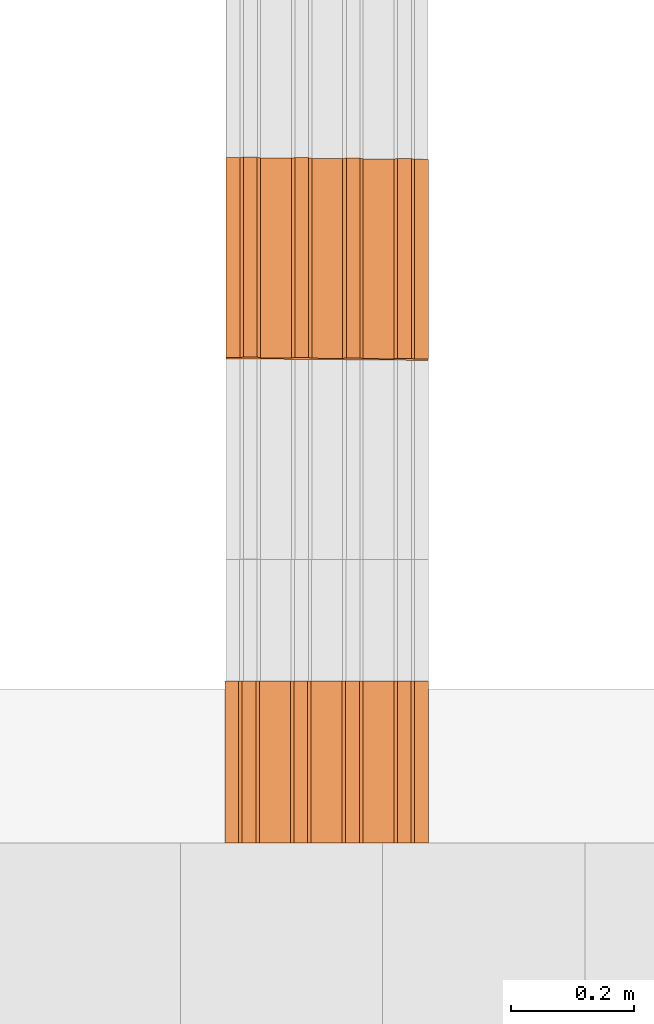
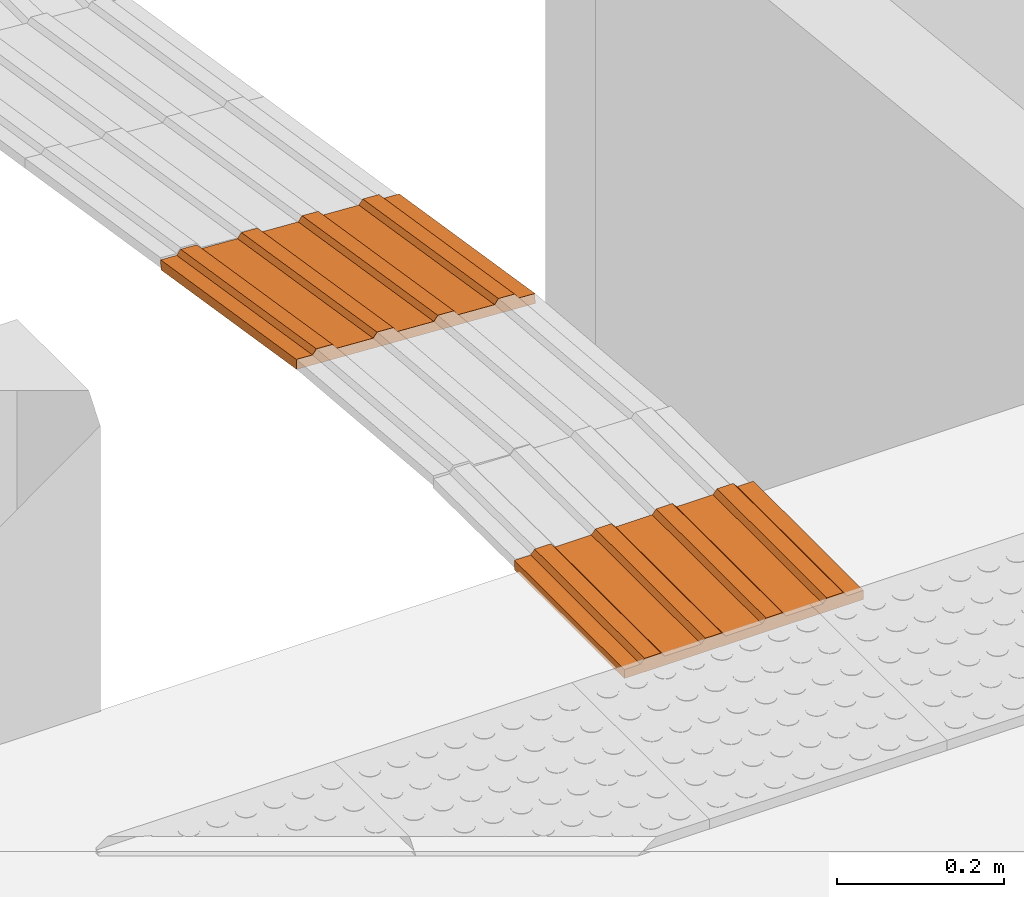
# One storey, part 228 of 237: 2 proxies.
"""IFC2X3 building model written with IfcOpenShell, lengths in millimetres."""

from ifc_helpers import new_model, entity, si_unit, converted_unit, derived_unit, money_unit, direction, frame, origin_with_axes, place, context, subcontext, project, spatial, open_shell, surface_model, type_object, element, save


model = new_model("IFC2X3")

# Units and contexts
model_context = context("Model", 3, precision=0.01, world=origin_with_axes(), true_north=direction((0.0, 1.0)))
body_context = subcontext(model_context, "Body", "Model", "MODEL_VIEW")
ifc_project = project(units=[si_unit("LENGTHUNIT", "METRE", prefix="MILLI"), si_unit("AREAUNIT", "SQUARE_METRE"), si_unit("VOLUMEUNIT", "CUBIC_METRE"), converted_unit("PLANEANGLEUNIT", "DEGREE", entity("IfcPlaneAngleMeasure", 0.0174532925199), si_unit("PLANEANGLEUNIT", "RADIAN"), dimensions=[0, 0, 0, 0, 0, 0, 0]), money_unit("USD"), converted_unit("TIMEUNIT", "Year", entity("IfcTimeMeasure", 31556926.0), si_unit("TIMEUNIT", "SECOND"), dimensions=[0, 0, 1, 0, 0, 0, 0]), si_unit("MASSUNIT", "GRAM", prefix="KILO"), si_unit("THERMODYNAMICTEMPERATUREUNIT", "DEGREE_CELSIUS"), si_unit("LUMINOUSINTENSITYUNIT", "LUMEN"), si_unit("ENERGYUNIT", "JOULE", prefix="MEGA"), derived_unit("THERMALCONDUCTANCEUNIT", [(si_unit("POWERUNIT", "WATT"), 1), (si_unit("LENGTHUNIT", "METRE"), -1), (si_unit("THERMODYNAMICTEMPERATUREUNIT", "KELVIN"), -1)]), derived_unit("SPECIFICHEATCAPACITYUNIT", [(si_unit("ENERGYUNIT", "JOULE"), 1), (si_unit("MASSUNIT", "GRAM", prefix="KILO"), -1), (si_unit("THERMODYNAMICTEMPERATUREUNIT", "KELVIN"), -1)]), derived_unit("MASSDENSITYUNIT", [(si_unit("MASSUNIT", "GRAM", prefix="KILO"), 1), (si_unit("VOLUMEUNIT", "CUBIC_METRE"), -1)])], contexts=[model_context])

# Site, building, storey
site_placement = place(None, origin_with_axes())
site = spatial("IfcSite", under=ifc_project, at=site_placement, Name="Local", CompositionType="ELEMENT")
building_placement = place(site_placement, origin_with_axes())
building = spatial("IfcBuilding", under=site, at=building_placement, Name="Construção", CompositionType="ELEMENT")
storey_placement = place(building_placement, origin_with_axes())
storey = spatial("IfcBuildingStorey", under=building, at=storey_placement, Name="Pavimento Térreo", CompositionType="ELEMENT", Elevation=0.0)

# Proxies
building_element_proxy_type = type_object("IfcBuildingElementProxyType", Name="Piso Direcional 27", PredefinedType="NOTDEFINED")
proxy_1_placement = place(storey_placement, frame((97801.7189326, 35320.0522572, -5076.21992774), z_axis=(0.0, 0.0, 1.0), x_axis=(0.0, -1.0, 0.0)))
element("IfcBuildingElementProxy", 1, at=proxy_1_placement, inside=storey, type_object=building_element_proxy_type, Name="Objeto-0055", context=body_context, shape_type="SurfaceModel", body=[
    surface_model("IfcShellBasedSurfaceModel", [(-1.01624583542, -46.9826230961, 6.41632368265), (324.920906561, -46.9826230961, 58.0396971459), (323.9252319, -41.0481616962, 64.3261395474), (-2.01192049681, -41.0481616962, 12.7027660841)], [open_shell([[[0, 1, 2, 3]]])]),
    surface_model("IfcShellBasedSurfaceModel", [(326.133783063, -153.805981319, 50.3818962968), (328.835541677, 175.74176515, 33.3236637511), (326.752607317, 176.4395779, 46.4747937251), (326.569437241, 154.0973578, 47.6312840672), (325.482177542, 148.86070915, 54.4959716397), (325.299007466, 126.518489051, 55.6524619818), (326.294682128, 120.584027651, 49.3660195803), (325.882549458, 70.3140324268, 51.96812285), (324.795289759, 65.0773837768, 58.8328104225), (324.612119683, 42.7351636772, 59.9893007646), (325.607794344, 36.8007022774, 53.7028583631), (325.195661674, -13.4692929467, 56.3049616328), (324.108401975, -18.7059415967, 63.1696492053), (323.9252319, -41.0481616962, 64.3261395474), (324.920906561, -46.9826230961, 58.0396971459), (324.508773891, -97.2526183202, 60.6418004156), (323.421514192, -102.48926697, 67.5064879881), (323.238344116, -124.83148707, 68.6629783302), (324.234018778, -130.76594847, 62.3765359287), (324.050848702, -153.108168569, 63.5330262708)], [open_shell([[[0, 1, 2, 3, 4, 5, 6, 7, 8, 9, 10, 11, 12, 13, 14, 15, 16, 17, 18, 19]]])]),
    surface_model("IfcShellBasedSurfaceModel", [(-1.82875042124, -18.7059415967, 11.5462757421), (324.108401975, -18.7059415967, 63.1696492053), (325.195661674, -13.4692929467, 56.3049616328), (-0.74149072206, -13.4692929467, 4.68158816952)], [open_shell([[[0, 1, 2, 3]]])]),
    surface_model("IfcShellBasedSurfaceModel", [(-2.51563820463, -102.48926697, 15.8831145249), (323.421514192, -102.48926697, 67.5064879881), (324.508773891, -97.2526183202, 60.6418004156), (-1.42837850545, -97.2526183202, 9.01842695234)], [open_shell([[[0, 1, 2, 3]]])]),
    surface_model("IfcShellBasedSurfaceModel", [(-1.14186263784, 65.0773837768, 7.20943695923), (324.795289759, 65.0773837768, 58.8328104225), (325.882549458, 70.3140324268, 51.96812285), (-0.0546029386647, 70.3140324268, 0.3447493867)], [open_shell([[[0, 1, 2, 3]]])]),
    surface_model("IfcShellBasedSurfaceModel", [(-0.329358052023, 36.8007022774, 2.07948489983), (325.607794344, 36.8007022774, 53.7028583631), (324.612119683, 42.7351636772, 59.9893007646), (-1.32503271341, 42.7351636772, 8.36592730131)], [open_shell([[[0, 1, 2, 3]]])]),
    surface_model("IfcShellBasedSurfaceModel", [(-1.70313361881, -130.76594847, 10.7531624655), (324.234018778, -130.76594847, 62.3765359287), (323.238344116, -124.83148707, 68.6629783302), (-2.6988082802, -124.83148707, 17.039604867)], [open_shell([[[0, 1, 2, 3]]])]),
    surface_model("IfcShellBasedSurfaceModel", [(0.815454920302, 176.4395779, -5.14857973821), (0.63228484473, 154.0973578, -3.99208939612), (326.569437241, 154.0973578, 47.6312840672), (326.752607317, 176.4395779, 46.4747937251)], [open_shell([[[0, 1, 2, 3]]])]),
    surface_model("IfcShellBasedSurfaceModel", [(0.357529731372, 120.584027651, -2.25735388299), (326.294682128, 120.584027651, 49.3660195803), (325.299007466, 126.518489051, 55.6524619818), (-0.638144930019, 126.518489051, 4.02908851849)], [open_shell([[[0, 1, 2, 3]]])]),
    surface_model("IfcShellBasedSurfaceModel", [(-0.454974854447, 148.86070915, 2.87259817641), (325.482177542, 148.86070915, 54.4959716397), (326.569437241, 154.0973578, 47.6312840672), (0.63228484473, 154.0973578, -3.99208939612)], [open_shell([[[0, 1, 2, 3]]])]),
    surface_model("IfcShellBasedSurfaceModel", [(-0.329358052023, 36.8007022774, 2.07948489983), (-0.74149072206, -13.4692929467, 4.68158816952), (325.195661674, -13.4692929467, 56.3049616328), (325.607794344, 36.8007022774, 53.7028583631)], [open_shell([[[0, 1, 2, 3]]])]),
    surface_model("IfcShellBasedSurfaceModel", [(0.357529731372, 120.584027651, -2.25735388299), (-0.0546029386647, 70.3140324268, 0.3447493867), (325.882549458, 70.3140324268, 51.96812285), (326.294682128, 120.584027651, 49.3660195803)], [open_shell([[[0, 1, 2, 3]]])]),
    surface_model("IfcShellBasedSurfaceModel", [(-0.454974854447, 148.86070915, 2.87259817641), (-0.638144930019, 126.518489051, 4.02908851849), (325.299007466, 126.518489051, 55.6524619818), (325.482177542, 148.86070915, 54.4959716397)], [open_shell([[[0, 1, 2, 3]]])]),
    surface_model("IfcShellBasedSurfaceModel", [(0.357529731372, 120.584027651, -2.25735388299), (-0.638144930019, 126.518489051, 4.02908851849), (-0.454974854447, 148.86070915, 2.87259817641), (0.63228484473, 154.0973578, -3.99208939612), (0.815454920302, 176.4395779, -5.14857973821), (2.89838928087, 175.74176515, -18.2997097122), (0.196630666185, -153.805981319, -1.24147716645), (-1.88630369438, -153.108168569, 11.9096528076), (-1.70313361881, -130.76594847, 10.7531624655), (-2.6988082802, -124.83148707, 17.039604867), (-2.51563820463, -102.48926697, 15.8831145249), (-1.42837850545, -97.2526183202, 9.01842695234), (-1.01624583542, -46.9826230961, 6.41632368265), (-2.01192049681, -41.0481616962, 12.7027660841), (-1.82875042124, -18.7059415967, 11.5462757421), (-0.74149072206, -13.4692929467, 4.68158816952), (-0.329358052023, 36.8007022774, 2.07948489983), (-1.32503271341, 42.7351636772, 8.36592730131), (-1.14186263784, 65.0773837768, 7.20943695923), (-0.0546029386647, 70.3140324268, 0.3447493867)], [open_shell([[[0, 1, 2, 3, 4, 5, 6, 7, 8, 9, 10, 11, 12, 13, 14, 15, 16, 17, 18, 19]]])]),
    surface_model("IfcShellBasedSurfaceModel", [(323.9252319, -41.0481616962, 64.3261395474), (324.108401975, -18.7059415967, 63.1696492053), (-1.82875042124, -18.7059415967, 11.5462757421), (-2.01192049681, -41.0481616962, 12.7027660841)], [open_shell([[[0, 1, 2, 3]]])]),
    surface_model("IfcShellBasedSurfaceModel", [(-1.01624583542, -46.9826230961, 6.41632368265), (-1.42837850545, -97.2526183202, 9.01842695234), (324.508773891, -97.2526183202, 60.6418004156), (324.920906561, -46.9826230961, 58.0396971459)], [open_shell([[[0, 1, 2, 3]]])]),
    surface_model("IfcShellBasedSurfaceModel", [(324.612119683, 42.7351636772, 59.9893007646), (324.795289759, 65.0773837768, 58.8328104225), (-1.14186263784, 65.0773837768, 7.20943695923), (-1.32503271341, 42.7351636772, 8.36592730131)], [open_shell([[[0, 1, 2, 3]]])]),
    surface_model("IfcShellBasedSurfaceModel", [(323.238344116, -124.83148707, 68.6629783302), (323.421514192, -102.48926697, 67.5064879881), (-2.51563820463, -102.48926697, 15.8831145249), (-2.6988082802, -124.83148707, 17.039604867)], [open_shell([[[0, 1, 2, 3]]])]),
    surface_model("IfcShellBasedSurfaceModel", [(328.835541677, 175.74176515, 33.3236637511), (2.89838928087, 175.74176515, -18.2997097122), (0.815454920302, 176.4395779, -5.14857973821), (326.752607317, 176.4395779, 46.4747937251)], [open_shell([[[0, 1, 2, 3]]])]),
    surface_model("IfcShellBasedSurfaceModel", [(326.133783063, -153.805981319, 50.3818962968), (0.196630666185, -153.805981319, -1.24147716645), (2.89838928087, 175.74176515, -18.2997097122), (328.835541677, 175.74176515, 33.3236637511)], [open_shell([[[0, 1, 2, 3]]])]),
    surface_model("IfcShellBasedSurfaceModel", [(324.050848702, -153.108168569, 63.5330262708), (324.234018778, -130.76594847, 62.3765359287), (-1.70313361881, -130.76594847, 10.7531624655), (-1.88630369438, -153.108168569, 11.9096528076)], [open_shell([[[0, 1, 2, 3]]])]),
    surface_model("IfcShellBasedSurfaceModel", [(0.196630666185, -153.805981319, -1.24147716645), (326.133783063, -153.805981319, 50.3818962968), (324.050848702, -153.108168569, 63.5330262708), (-1.88630369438, -153.108168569, 11.9096528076)], [open_shell([[[0, 1, 2, 3]]])]),
])
proxy_2_placement = place(storey_placement, frame((97800.8110891, 34468.5702535, -4990.76854736), z_axis=(0.0, 0.0, 1.0), x_axis=(0.0, -1.0, 0.0)))
element("IfcBuildingElementProxy", 2, at=proxy_2_placement, inside=storey, type_object=building_element_proxy_type, Name="Objeto-0055", context=body_context, shape_type="SurfaceModel", body=[
    surface_model("IfcShellBasedSurfaceModel", [(0.0, -47.501342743, 4.02852049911), (264.125317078, -47.501342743, 4.02852049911), (264.125317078, -41.8793483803, 10.6951871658), (0.0, -41.8793483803, 10.6951871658)], [open_shell([[[0, 1, 2, 3]]])]),
    surface_model("IfcShellBasedSurfaceModel", [(264.125317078, -154.319235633, -9.30481283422), (264.125317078, 177.378431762, -9.30481283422), (264.125317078, 177.378431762, 4.02852049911), (264.125317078, 154.890454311, 4.02852049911), (264.125317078, 149.268459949, 10.6951871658), (264.125317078, 126.780482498, 10.6951871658), (264.125317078, 121.158488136, 4.02852049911), (264.125317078, 70.560538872, 4.02852049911), (264.125317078, 64.9385445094, 10.6951871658), (264.125317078, 42.4505670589, 10.6951871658), (264.125317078, 36.8285726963, 4.02852049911), (264.125317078, -13.7693765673, 4.02852049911), (264.125317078, -19.3913709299, 10.6951871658), (264.125317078, -41.8793483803, 10.6951871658), (264.125317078, -47.501342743, 4.02852049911), (264.125317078, -98.0992920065, 4.02852049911), (264.125317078, -103.721286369, 10.6951871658), (264.125317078, -126.20926382, 10.6951871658), (264.125317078, -131.831258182, 4.02852049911), (264.125317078, -154.319235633, 4.02852049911)], [open_shell([[[0, 1, 2, 3, 4, 5, 6, 7, 8, 9, 10, 11, 12, 13, 14, 15, 16, 17, 18, 19]]])]),
    surface_model("IfcShellBasedSurfaceModel", [(0.0, -19.3913709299, 10.6951871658), (264.125317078, -19.3913709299, 10.6951871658), (264.125317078, -13.7693765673, 4.02852049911), (0.0, -13.7693765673, 4.02852049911)], [open_shell([[[0, 1, 2, 3]]])]),
    surface_model("IfcShellBasedSurfaceModel", [(0.0, -103.721286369, 10.6951871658), (264.125317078, -103.721286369, 10.6951871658), (264.125317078, -98.0992920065, 4.02852049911), (0.0, -98.0992920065, 4.02852049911)], [open_shell([[[0, 1, 2, 3]]])]),
    surface_model("IfcShellBasedSurfaceModel", [(0.0, 64.9385445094, 10.6951871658), (264.125317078, 64.9385445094, 10.6951871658), (264.125317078, 70.560538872, 4.02852049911), (0.0, 70.560538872, 4.02852049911)], [open_shell([[[0, 1, 2, 3]]])]),
    surface_model("IfcShellBasedSurfaceModel", [(0.0, 36.8285726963, 4.02852049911), (264.125317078, 36.8285726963, 4.02852049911), (264.125317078, 42.4505670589, 10.6951871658), (0.0, 42.4505670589, 10.6951871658)], [open_shell([[[0, 1, 2, 3]]])]),
    surface_model("IfcShellBasedSurfaceModel", [(0.0, -131.831258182, 4.02852049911), (264.125317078, -131.831258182, 4.02852049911), (264.125317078, -126.20926382, 10.6951871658), (0.0, -126.20926382, 10.6951871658)], [open_shell([[[0, 1, 2, 3]]])]),
    surface_model("IfcShellBasedSurfaceModel", [(0.0, 177.378431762, 4.02852049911), (0.0, 154.890454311, 4.02852049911), (264.125317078, 154.890454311, 4.02852049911), (264.125317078, 177.378431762, 4.02852049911)], [open_shell([[[0, 1, 2, 3]]])]),
    surface_model("IfcShellBasedSurfaceModel", [(0.0, 121.158488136, 4.02852049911), (264.125317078, 121.158488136, 4.02852049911), (264.125317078, 126.780482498, 10.6951871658), (0.0, 126.780482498, 10.6951871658)], [open_shell([[[0, 1, 2, 3]]])]),
    surface_model("IfcShellBasedSurfaceModel", [(0.0, 149.268459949, 10.6951871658), (264.125317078, 149.268459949, 10.6951871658), (264.125317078, 154.890454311, 4.02852049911), (0.0, 154.890454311, 4.02852049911)], [open_shell([[[0, 1, 2, 3]]])]),
    surface_model("IfcShellBasedSurfaceModel", [(0.0, 36.8285726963, 4.02852049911), (0.0, -13.7693765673, 4.02852049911), (264.125317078, -13.7693765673, 4.02852049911), (264.125317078, 36.8285726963, 4.02852049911)], [open_shell([[[0, 1, 2, 3]]])]),
    surface_model("IfcShellBasedSurfaceModel", [(0.0, 121.158488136, 4.02852049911), (0.0, 70.560538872, 4.02852049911), (264.125317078, 70.560538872, 4.02852049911), (264.125317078, 121.158488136, 4.02852049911)], [open_shell([[[0, 1, 2, 3]]])]),
    surface_model("IfcShellBasedSurfaceModel", [(0.0, 149.268459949, 10.6951871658), (0.0, 126.780482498, 10.6951871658), (264.125317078, 126.780482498, 10.6951871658), (264.125317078, 149.268459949, 10.6951871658)], [open_shell([[[0, 1, 2, 3]]])]),
    surface_model("IfcShellBasedSurfaceModel", [(0.0, 121.158488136, 4.02852049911), (0.0, 126.780482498, 10.6951871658), (0.0, 149.268459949, 10.6951871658), (0.0, 154.890454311, 4.02852049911), (0.0, 177.378431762, 4.02852049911), (0.0, 177.378431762, -9.30481283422), (0.0, -154.319235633, -9.30481283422), (0.0, -154.319235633, 4.02852049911), (0.0, -131.831258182, 4.02852049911), (0.0, -126.20926382, 10.6951871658), (0.0, -103.721286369, 10.6951871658), (0.0, -98.0992920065, 4.02852049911), (0.0, -47.501342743, 4.02852049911), (0.0, -41.8793483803, 10.6951871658), (0.0, -19.3913709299, 10.6951871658), (0.0, -13.7693765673, 4.02852049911), (0.0, 36.8285726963, 4.02852049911), (0.0, 42.4505670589, 10.6951871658), (0.0, 64.9385445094, 10.6951871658), (0.0, 70.560538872, 4.02852049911)], [open_shell([[[0, 1, 2, 3, 4, 5, 6, 7, 8, 9, 10, 11, 12, 13, 14, 15, 16, 17, 18, 19]]])]),
    surface_model("IfcShellBasedSurfaceModel", [(264.125317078, -41.8793483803, 10.6951871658), (264.125317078, -19.3913709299, 10.6951871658), (0.0, -19.3913709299, 10.6951871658), (0.0, -41.8793483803, 10.6951871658)], [open_shell([[[0, 1, 2, 3]]])]),
    surface_model("IfcShellBasedSurfaceModel", [(0.0, -47.501342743, 4.02852049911), (0.0, -98.0992920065, 4.02852049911), (264.125317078, -98.0992920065, 4.02852049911), (264.125317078, -47.501342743, 4.02852049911)], [open_shell([[[0, 1, 2, 3]]])]),
    surface_model("IfcShellBasedSurfaceModel", [(264.125317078, 42.4505670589, 10.6951871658), (264.125317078, 64.9385445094, 10.6951871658), (0.0, 64.9385445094, 10.6951871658), (0.0, 42.4505670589, 10.6951871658)], [open_shell([[[0, 1, 2, 3]]])]),
    surface_model("IfcShellBasedSurfaceModel", [(264.125317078, -126.20926382, 10.6951871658), (264.125317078, -103.721286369, 10.6951871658), (0.0, -103.721286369, 10.6951871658), (0.0, -126.20926382, 10.6951871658)], [open_shell([[[0, 1, 2, 3]]])]),
    surface_model("IfcShellBasedSurfaceModel", [(264.125317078, 177.378431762, -9.30481283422), (0.0, 177.378431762, -9.30481283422), (0.0, 177.378431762, 4.02852049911), (264.125317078, 177.378431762, 4.02852049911)], [open_shell([[[0, 1, 2, 3]]])]),
    surface_model("IfcShellBasedSurfaceModel", [(264.125317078, -154.319235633, -9.30481283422), (0.0, -154.319235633, -9.30481283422), (0.0, 177.378431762, -9.30481283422), (264.125317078, 177.378431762, -9.30481283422)], [open_shell([[[0, 1, 2, 3]]])]),
    surface_model("IfcShellBasedSurfaceModel", [(264.125317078, -154.319235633, 4.02852049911), (264.125317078, -131.831258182, 4.02852049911), (0.0, -131.831258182, 4.02852049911), (0.0, -154.319235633, 4.02852049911)], [open_shell([[[0, 1, 2, 3]]])]),
    surface_model("IfcShellBasedSurfaceModel", [(0.0, -154.319235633, -9.30481283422), (264.125317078, -154.319235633, -9.30481283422), (264.125317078, -154.319235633, 4.02852049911), (0.0, -154.319235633, 4.02852049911)], [open_shell([[[0, 1, 2, 3]]])]),
])

save(model, "model.ifc")
